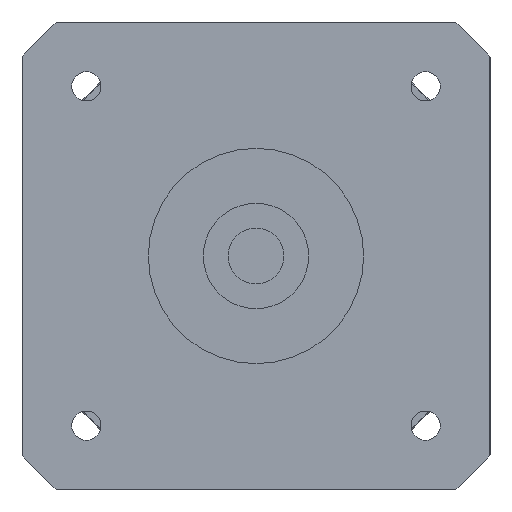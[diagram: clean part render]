
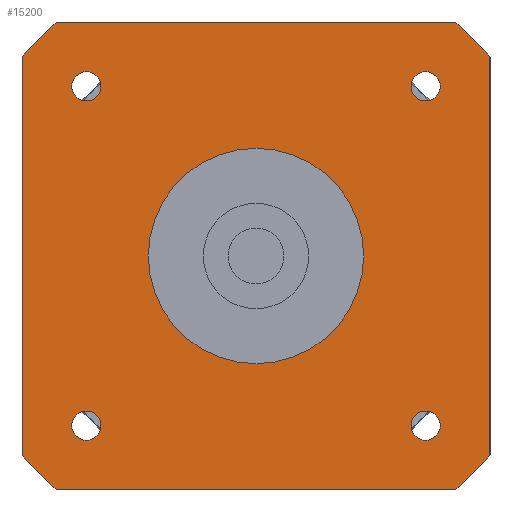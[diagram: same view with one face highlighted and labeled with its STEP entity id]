
A CAD part, left-side view. The second image highlights one B-rep face of the part: STEP entity #15200.
In plain terms, the highlighted planar face has unit normal (-1, 0, 0) as drawn and (0, 0, -1) by its records, which use the part's own axes.
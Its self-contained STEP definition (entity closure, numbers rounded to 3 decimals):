
#8640=CARTESIAN_POINT('',(28.998,-26.498,-44.2));
#8650=VERTEX_POINT('',#8640);
#8920=CARTESIAN_POINT('',(28.998,-31.498,-44.2));
#8930=VERTEX_POINT('',#8920);
#8960=CARTESIAN_POINT('',(28.998,-28.998,-44.2));
#8970=DIRECTION('',(0.,0.,-1.));
#8980=DIRECTION('',(1.,0.,0.));
#8990=AXIS2_PLACEMENT_3D('',#8960,#8970,#8980);
#9000=CIRCLE('',#8990,2.5);
#9010=CARTESIAN_POINT('',(31.498,-28.998,-44.2));
#9020=VERTEX_POINT('',#9010);
#9030=EDGE_CURVE('',#9020,#8930,#9000,.T.);
#9050=EDGE_CURVE('',#8650,#9020,#9000,.T.);
#9210=CARTESIAN_POINT('',(-34.004,-40.,-44.2));
#9220=VERTEX_POINT('',#9210);
#9370=CARTESIAN_POINT('',(34.004,-40.,-44.2));
#9380=VERTEX_POINT('',#9370);
#9410=CARTESIAN_POINT('',(-40.,-40.,-44.2));
#9420=DIRECTION('',(1.,0.,0.));
#9430=VECTOR('',#9420,1000.);
#9440=LINE('',#9410,#9430);
#9450=EDGE_CURVE('',#9220,#9380,#9440,.T.);
#12710=CARTESIAN_POINT('',(40.,34.004,-44.2));
#12720=VERTEX_POINT('',#12710);
#12800=CARTESIAN_POINT('',(34.004,40.,-44.2));
#12810=VERTEX_POINT('',#12800);
#12840=CARTESIAN_POINT('',(0.,0.,
-44.2));
#12850=DIRECTION('',(0.,0.,1.));
#12860=DIRECTION('',(1.,0.,0.));
#12870=AXIS2_PLACEMENT_3D('',#12840,#12850,#12860);
#12880=CIRCLE('',#12870,52.5);
#12890=EDGE_CURVE('',#12720,#12810,#12880,.T.);
#13030=CARTESIAN_POINT('',(40.,-34.004,-44.2));
#13040=VERTEX_POINT('',#13030);
#13090=CARTESIAN_POINT('',(40.,-40.,-44.2));
#13100=DIRECTION('',(0.,1.,0.));
#13110=VECTOR('',#13100,1000.);
#13120=LINE('',#13090,#13110);
#13130=EDGE_CURVE('',#13040,#12720,#13120,.T.);
#13240=CARTESIAN_POINT('',(0.,0.,
-44.2));
#13250=DIRECTION('',(0.,0.,1.));
#13260=DIRECTION('',(1.,0.,0.));
#13270=AXIS2_PLACEMENT_3D('',#13240,#13250,#13260);
#13280=CIRCLE('',#13270,52.5);
#13290=EDGE_CURVE('',#9380,#13040,#13280,.T.);
#13470=CARTESIAN_POINT('',(-34.004,40.,-44.2));
#13480=VERTEX_POINT('',#13470);
#13510=CARTESIAN_POINT('',(40.,40.,-44.2));
#13520=DIRECTION('',(-1.,0.,0.));
#13530=VECTOR('',#13520,1000.);
#13540=LINE('',#13510,#13530);
#13550=EDGE_CURVE('',#12810,#13480,#13540,.T.);
#13710=CARTESIAN_POINT('',(-40.,34.004,-44.2));
#13720=VERTEX_POINT('',#13710);
#13750=CARTESIAN_POINT('',(0.,0.,
-44.2));
#13760=DIRECTION('',(0.,0.,1.));
#13770=DIRECTION('',(1.,0.,0.));
#13780=AXIS2_PLACEMENT_3D('',#13750,#13760,#13770);
#13790=CIRCLE('',#13780,52.5);
#13800=EDGE_CURVE('',#13480,#13720,#13790,.T.);
#13960=CARTESIAN_POINT('',(-40.,-34.004,-44.2));
#13970=VERTEX_POINT('',#13960);
#14000=CARTESIAN_POINT('',(-40.,40.,-44.2));
#14010=DIRECTION('',(0.,-1.,0.));
#14020=VECTOR('',#14010,1000.);
#14030=LINE('',#14000,#14020);
#14040=EDGE_CURVE('',#13720,#13970,#14030,.T.);
#14170=CARTESIAN_POINT('',(0.,0.,
-44.2));
#14180=DIRECTION('',(0.,0.,1.));
#14190=DIRECTION('',(1.,0.,0.));
#14200=AXIS2_PLACEMENT_3D('',#14170,#14180,#14190);
#14210=CIRCLE('',#14200,52.5);
#14220=EDGE_CURVE('',#13970,#9220,#14210,.T.);
#14270=CARTESIAN_POINT('',(40.,40.,-44.2));
#14280=DIRECTION('',(0.,0.,1.));
#14290=DIRECTION('',(0.,1.,0.));
#14300=AXIS2_PLACEMENT_3D('',#14270,#14280,#14290);
#14310=PLANE('',#14300);
#14320=CARTESIAN_POINT('',(28.998,28.998,-44.2));
#14330=DIRECTION('',(0.,0.,-1.));
#14340=DIRECTION('',(1.,0.,0.));
#14350=AXIS2_PLACEMENT_3D('',#14320,#14330,#14340);
#14360=CIRCLE('',#14350,2.5);
#14370=CARTESIAN_POINT('',(31.498,28.998,-44.2));
#14380=VERTEX_POINT('',#14370);
#14390=CARTESIAN_POINT('',(28.998,26.498,-44.2));
#14400=VERTEX_POINT('',#14390);
#14410=EDGE_CURVE('',#14380,#14400,#14360,.T.);
#14420=ORIENTED_EDGE('',*,*,#14410,.F.);
#14430=CARTESIAN_POINT('',(28.998,31.498,-44.2));
#14440=VERTEX_POINT('',#14430);
#14450=EDGE_CURVE('',#14400,#14440,#14360,.T.);
#14460=ORIENTED_EDGE('',*,*,#14450,.F.);
#14470=EDGE_CURVE('',#14440,#14380,#14360,.T.);
#14480=ORIENTED_EDGE('',*,*,#14470,.F.);
#14490=EDGE_LOOP('',(#14480,#14460,#14420));
#14500=FACE_BOUND('',#14490,.T.);
#14510=CARTESIAN_POINT('',(-28.998,28.998,-44.2));
#14520=DIRECTION('',(0.,0.,-1.));
#14530=DIRECTION('',(1.,0.,0.));
#14540=AXIS2_PLACEMENT_3D('',#14510,#14520,#14530);
#14550=CIRCLE('',#14540,2.5);
#14560=CARTESIAN_POINT('',(-26.498,28.998,-44.2));
#14570=VERTEX_POINT('',#14560);
#14580=CARTESIAN_POINT('',(-28.998,26.498,-44.2));
#14590=VERTEX_POINT('',#14580);
#14600=EDGE_CURVE('',#14570,#14590,#14550,.T.);
#14610=ORIENTED_EDGE('',*,*,#14600,.F.);
#14620=CARTESIAN_POINT('',(-28.998,31.498,-44.2));
#14630=VERTEX_POINT('',#14620);
#14640=EDGE_CURVE('',#14590,#14630,#14550,.T.);
#14650=ORIENTED_EDGE('',*,*,#14640,.F.);
#14660=EDGE_CURVE('',#14630,#14570,#14550,.T.);
#14670=ORIENTED_EDGE('',*,*,#14660,.F.);
#14680=EDGE_LOOP('',(#14670,#14650,#14610));
#14690=FACE_BOUND('',#14680,.T.);
#14700=CARTESIAN_POINT('',(0.,0.,
-44.2));
#14710=DIRECTION('',(0.,0.,1.));
#14720=DIRECTION('',(0.,-1.,0.));
#14730=AXIS2_PLACEMENT_3D('',#14700,#14710,#14720);
#14740=CIRCLE('',#14730,18.4);
#14750=CARTESIAN_POINT('',(0.,-18.4,-44.2));
#14760=VERTEX_POINT('',#14750);
#14770=CARTESIAN_POINT('',(0.,18.4,-44.2));
#14780=VERTEX_POINT('',#14770);
#14790=EDGE_CURVE('',#14760,#14780,#14740,.T.);
#14800=ORIENTED_EDGE('',*,*,#14790,.T.);
#14810=EDGE_CURVE('',#14780,#14760,#14740,.T.);
#14820=ORIENTED_EDGE('',*,*,#14810,.T.);
#14830=EDGE_LOOP('',(#14820,#14800));
#14840=FACE_BOUND('',#14830,.T.);
#14850=CARTESIAN_POINT('',(-28.998,-28.998,-44.2));
#14860=DIRECTION('',(0.,0.,-1.));
#14870=DIRECTION('',(1.,0.,0.));
#14880=AXIS2_PLACEMENT_3D('',#14850,#14860,#14870);
#14890=CIRCLE('',#14880,2.5);
#14900=CARTESIAN_POINT('',(-26.498,-28.998,-44.2));
#14910=VERTEX_POINT('',#14900);
#14920=CARTESIAN_POINT('',(-28.998,-31.498,-44.2));
#14930=VERTEX_POINT('',#14920);
#14940=EDGE_CURVE('',#14910,#14930,#14890,.T.);
#14950=ORIENTED_EDGE('',*,*,#14940,.F.);
#14960=CARTESIAN_POINT('',(-28.998,-26.498,-44.2));
#14970=VERTEX_POINT('',#14960);
#14980=EDGE_CURVE('',#14930,#14970,#14890,.T.);
#14990=ORIENTED_EDGE('',*,*,#14980,.F.);
#15000=EDGE_CURVE('',#14970,#14910,#14890,.T.);
#15010=ORIENTED_EDGE('',*,*,#15000,.F.);
#15020=EDGE_LOOP('',(#15010,#14990,#14950));
#15030=FACE_BOUND('',#15020,.T.);
#15040=ORIENTED_EDGE('',*,*,#9030,.F.);
#15050=EDGE_CURVE('',#8930,#8650,#9000,.T.);
#15060=ORIENTED_EDGE('',*,*,#15050,.F.);
#15070=ORIENTED_EDGE('',*,*,#9050,.F.);
#15080=EDGE_LOOP('',(#15070,#15060,#15040));
#15090=FACE_BOUND('',#15080,.T.);
#15100=ORIENTED_EDGE('',*,*,#13800,.F.);
#15110=ORIENTED_EDGE('',*,*,#14040,.F.);
#15120=ORIENTED_EDGE('',*,*,#14220,.F.);
#15130=ORIENTED_EDGE('',*,*,#9450,.F.);
#15140=ORIENTED_EDGE('',*,*,#13290,.F.);
#15150=ORIENTED_EDGE('',*,*,#13130,.F.);
#15160=ORIENTED_EDGE('',*,*,#12890,.F.);
#15170=ORIENTED_EDGE('',*,*,#13550,.F.);
#15180=EDGE_LOOP('',(#15170,#15160,#15150,#15140,#15130,#15120,#15110,
#15100));
#15190=FACE_OUTER_BOUND('',#15180,.T.);
#15200=ADVANCED_FACE('',(#14500,#14690,#14840,#15030,#15090,#15190),
#14310,.F.);
